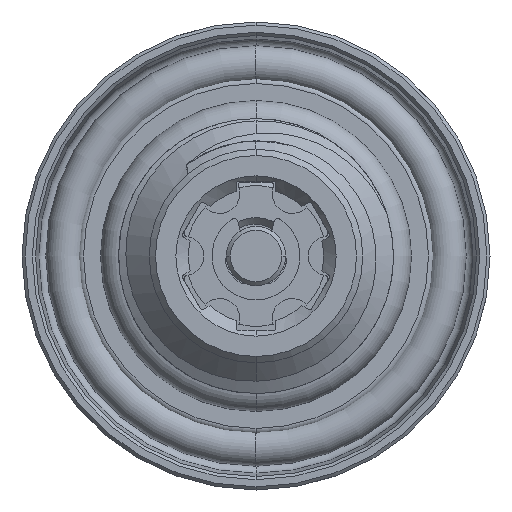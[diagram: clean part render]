
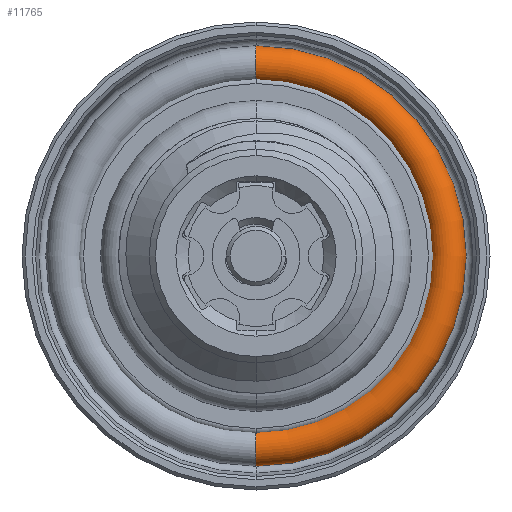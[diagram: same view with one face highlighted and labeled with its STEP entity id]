
A CAD part, front view. The second image highlights one B-rep face of the part: STEP entity #11765.
In plain terms, the highlighted toroidal (fillet/blend) face has major radius 7.75 mm and minor radius 0.75 mm.
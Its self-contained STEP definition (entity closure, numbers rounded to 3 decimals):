
#1371 = EDGE_CURVE ( 'NONE', #3560, #2256, #1501, .T. ) ;
#1501 = CIRCLE ( 'NONE', #16346, 7. ) ;
#1510 = DIRECTION ( 'NONE',  ( 0., 1., 0. ) ) ;
#1684 = ORIENTED_EDGE ( 'NONE', *, *, #1371, .T. ) ;
#1990 = DIRECTION ( 'NONE',  ( -1., 0., 0. ) ) ;
#2256 = VERTEX_POINT ( 'NONE', #7295 ) ;
#3198 = EDGE_CURVE ( 'NONE', #2256, #18876, #13025, .T. ) ;
#3420 = AXIS2_PLACEMENT_3D ( 'NONE', #11546, #8287, #19842 ) ;
#3560 = VERTEX_POINT ( 'NONE', #19580 ) ;
#4469 = CARTESIAN_POINT ( 'NONE',  ( 0., 0.52, -8.5 ) ) ;
#4927 = ORIENTED_EDGE ( 'NONE', *, *, #3198, .T. ) ;
#5172 = CIRCLE ( 'NONE', #15786, 8.5 ) ;
#5848 = DIRECTION ( 'NONE',  ( 0., 1., 0. ) ) ;
#6004 = EDGE_LOOP ( 'NONE', ( #19158, #13352, #1684, #4927 ) ) ;
#7295 = CARTESIAN_POINT ( 'NONE',  ( 0., 0.52, -7. ) ) ;
#7942 = CARTESIAN_POINT ( 'NONE',  ( 0., 0.52, -7.75 ) ) ;
#8018 = DIRECTION ( 'NONE',  ( 1., 0., 0. ) ) ;
#8264 = DIRECTION ( 'NONE',  ( 0., 1., 0. ) ) ;
#8287 = DIRECTION ( 'NONE',  ( 0., 1., 0. ) ) ;
#8418 = AXIS2_PLACEMENT_3D ( 'NONE', #18636, #8719, #20281 ) ;
#8719 = DIRECTION ( 'NONE',  ( -1., 0., 0. ) ) ;
#10920 = CARTESIAN_POINT ( 'NONE',  ( 0., 0.52, 0. ) ) ;
#11545 = CARTESIAN_POINT ( 'NONE',  ( 0., 0.52, 0. ) ) ;
#11546 = CARTESIAN_POINT ( 'NONE',  ( 0., 0.52, 0. ) ) ;
#11765 = ADVANCED_FACE ( 'NONE', ( #16169 ), #19009, .T. ) ;
#12603 = CIRCLE ( 'NONE', #8418, 0.75 ) ;
#13025 = CIRCLE ( 'NONE', #18362, 0.75 ) ;
#13226 = DIRECTION ( 'NONE',  ( -1., 0., 0. ) ) ;
#13352 = ORIENTED_EDGE ( 'NONE', *, *, #17012, .F. ) ;
#14938 = EDGE_CURVE ( 'NONE', #15531, #18876, #5172, .T. ) ;
#15531 = VERTEX_POINT ( 'NONE', #21511 ) ;
#15786 = AXIS2_PLACEMENT_3D ( 'NONE', #11545, #1510, #13226 ) ;
#16169 = FACE_OUTER_BOUND ( 'NONE', #6004, .T. ) ;
#16346 = AXIS2_PLACEMENT_3D ( 'NONE', #10920, #5848, #1990 ) ;
#17012 = EDGE_CURVE ( 'NONE', #3560, #15531, #12603, .T. ) ;
#18362 = AXIS2_PLACEMENT_3D ( 'NONE', #7942, #8018, #8264 ) ;
#18636 = CARTESIAN_POINT ( 'NONE',  ( 0., 0.52, 7.75 ) ) ;
#18876 = VERTEX_POINT ( 'NONE', #4469 ) ;
#19009 = TOROIDAL_SURFACE ( 'NONE', #3420, 7.75, 0.75 ) ;
#19158 = ORIENTED_EDGE ( 'NONE', *, *, #14938, .F. ) ;
#19580 = CARTESIAN_POINT ( 'NONE',  ( 0., 0.52, 7. ) ) ;
#19842 = DIRECTION ( 'NONE',  ( 0., 0., 1. ) ) ;
#20281 = DIRECTION ( 'NONE',  ( 0., -1., 0. ) ) ;
#21511 = CARTESIAN_POINT ( 'NONE',  ( 0., 0.52, 8.5 ) ) ;
